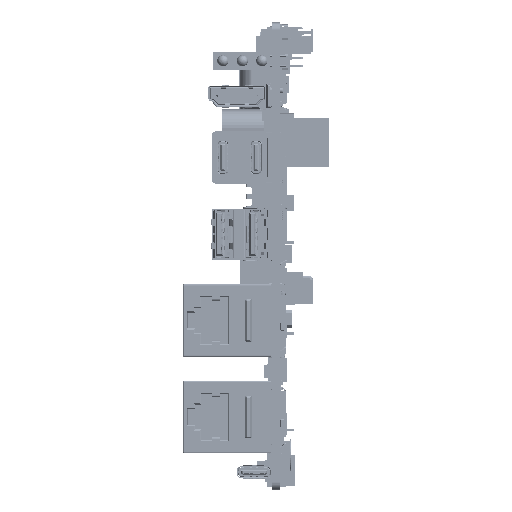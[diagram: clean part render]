
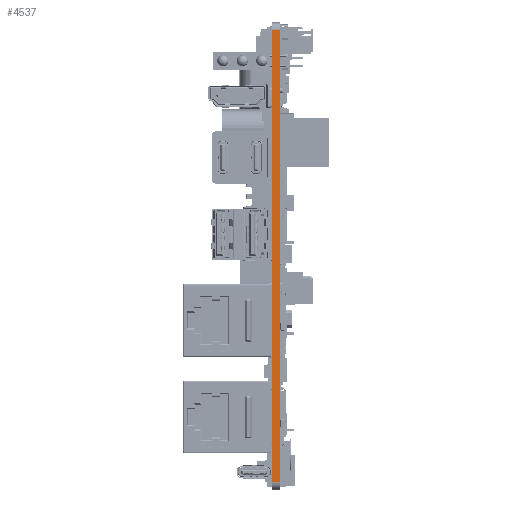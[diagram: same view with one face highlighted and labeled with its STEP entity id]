
A CAD part, left-side view. The second image highlights one B-rep face of the part: STEP entity #4537.
In plain terms, the highlighted planar face has unit normal (-1, 0, -0.001).
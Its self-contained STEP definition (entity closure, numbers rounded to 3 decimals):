
#941=DIRECTION('',(0.,0.,1.));
#942=VECTOR('',#941,2.);
#943=CARTESIAN_POINT('',(0.,117.968,-1.981));
#944=LINE('',#943,#942);
#955=DIRECTION('',(0.,1.,0.));
#956=VECTOR('',#955,115.936);
#957=CARTESIAN_POINT('',(0.,2.032,0.019));
#958=LINE('',#957,#956);
#962=DIRECTION('',(0.,-1.,0.));
#963=VECTOR('',#962,115.936);
#964=CARTESIAN_POINT('',(0.,117.968,-1.981));
#965=LINE('',#964,#963);
#984=DIRECTION('',(0.,0.,-1.));
#985=VECTOR('',#984,2.);
#986=CARTESIAN_POINT('',(0.,2.032,0.019));
#987=LINE('',#986,#985);
#3323=CARTESIAN_POINT('',(0.,2.032,-1.981));
#3324=VERTEX_POINT('',#3323);
#3325=CARTESIAN_POINT('',(0.,117.968,-1.981));
#3326=VERTEX_POINT('',#3325);
#3431=CARTESIAN_POINT('',(0.,2.032,0.019));
#3432=VERTEX_POINT('',#3431);
#3433=CARTESIAN_POINT('',(0.,117.968,0.019));
#3434=VERTEX_POINT('',#3433);
#4525=CARTESIAN_POINT('',(0.,2.032,0.));
#4526=DIRECTION('',(-1.,0.,0.));
#4527=DIRECTION('',(0.,1.,0.));
#4528=AXIS2_PLACEMENT_3D('',#4525,#4526,#4527);
#4529=PLANE('',#4528);
#4530=ORIENTED_EDGE('',*,*,#4181,.F.);
#4532=ORIENTED_EDGE('',*,*,#4531,.T.);
#4533=ORIENTED_EDGE('',*,*,#3908,.F.);
#4534=ORIENTED_EDGE('',*,*,#4511,.T.);
#4535=EDGE_LOOP('',(#4530,#4532,#4533,#4534));
#4536=FACE_OUTER_BOUND('',#4535,.F.);
#3908=EDGE_CURVE('',#3326,#3324,#965,.T.);
#4181=EDGE_CURVE('',#3432,#3434,#958,.T.);
#4511=EDGE_CURVE('',#3326,#3434,#944,.T.);
#4531=EDGE_CURVE('',#3432,#3324,#987,.T.);
#4537=ADVANCED_FACE('',(#4536),#4529,.T.);
